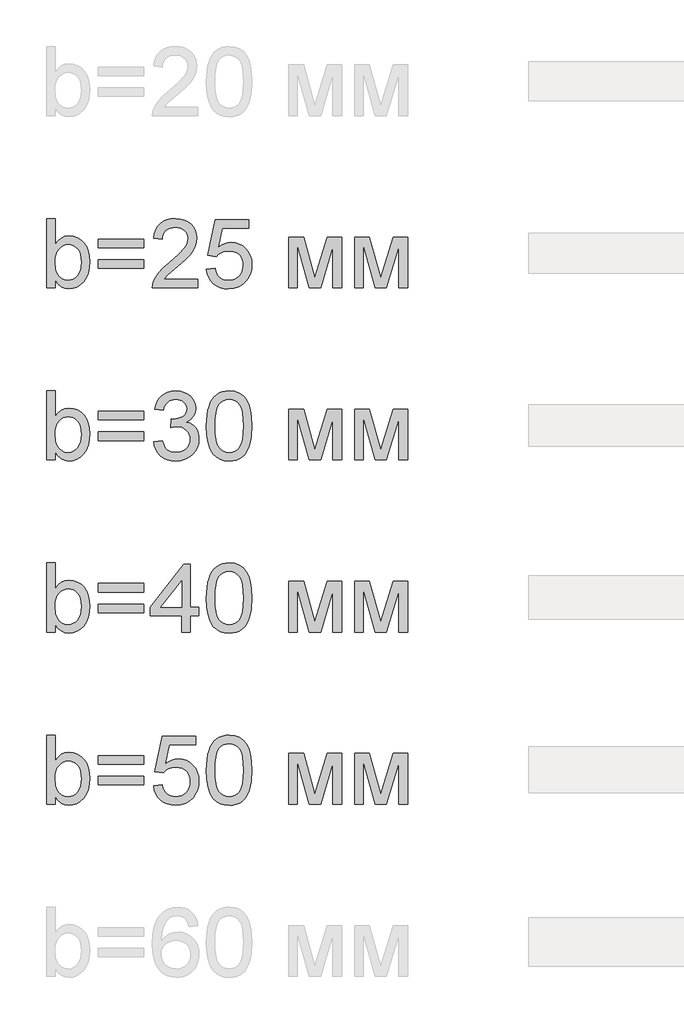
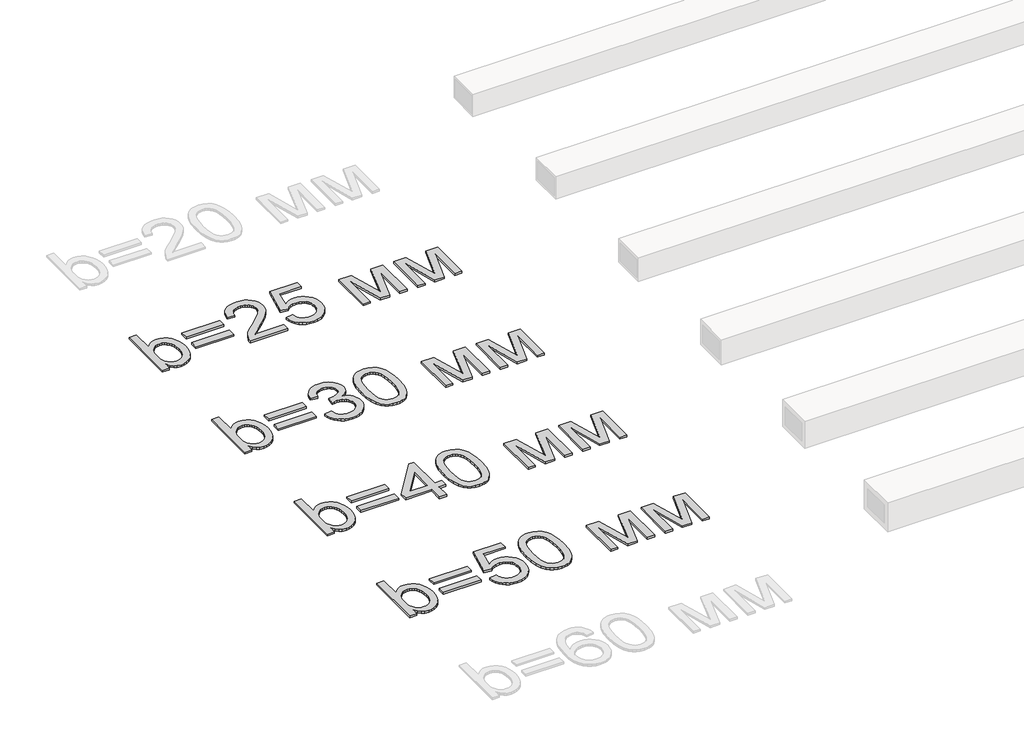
# One storey, part 84 of 86: 4 proxies.
"""IFC4 building model written with IfcOpenShell, lengths in millimetres."""

import ifcopenshell
import ifcopenshell.guid

model = None  # the IFC model being written
_history = None  # IfcOwnerHistory: only IFC2X3 demands one
_inside = {}  # id of a spatial element -> (the spatial element, [elements in it])
_under = {}  # id of a project, library or spatial element -> (it, [spatial elements below it])
_declared = {}  # id of a project -> (the project, [libraries it declares])
_typed = {}  # id of a type object -> (the type object, [elements of that type])
_made_of = {}  # id of a material, layer set ... -> (it, [elements and type objects made of it])


def new_model(schema):
    """Start an empty IFC model of exactly this schema.

    Asked for "IFC4X3", IfcOpenShell would pick the latest addendum, in which some entities
    have other attributes; the version numbers below select the first issue.
    IFC2X3 requires an IfcOwnerHistory on every rooted entity: one is made here for all.
    """
    global model, _history
    if schema == "IFC4X3":
        model = ifcopenshell.file(schema_version=(4, 3, 0, 0))
    else:
        model = ifcopenshell.file(schema=schema)
    _inside.clear()
    _under.clear()
    _declared.clear()
    _typed.clear()
    _made_of.clear()
    _history = None
    if model.schema == "IFC2X3":
        org = make("IfcOrganization", Name="unknown")
        user = make(
            "IfcPersonAndOrganization",
            ThePerson=make("IfcPerson", FamilyName="unknown"),
            TheOrganization=org,
        )
        app = make(
            "IfcApplication",
            ApplicationDeveloper=org,
            Version="unknown",
            ApplicationFullName="unknown",
            ApplicationIdentifier="unknown",
        )
        _history = make(
            "IfcOwnerHistory",
            OwningUser=user,
            OwningApplication=app,
            ChangeAction="ADDED",
            CreationDate=0,
        )
    return model


def make(cls, **values):
    """One entity of the class cls with the attributes given. An attribute that is None is left unset."""
    return model.create_entity(
        cls, **{name: value for name, value in values.items() if value is not None}
    )


def rooted(cls, **values):
    """An entity with a GlobalId (a new one), such as an element, a storey or a relation."""
    return make(cls, GlobalId=ifcopenshell.guid.new(), OwnerHistory=_history, **values)


def si_unit(unit_type, name, prefix=None):
    """IfcSIUnit, for example si_unit("LENGTHUNIT", "METRE", prefix="MILLI")."""
    return make("IfcSIUnit", UnitType=unit_type, Prefix=prefix, Name=name)


def assignment(units):
    """IfcUnitAssignment: the units of a project."""
    return None if units is None else make("IfcUnitAssignment", Units=units)


def point(xyz):
    """IfcCartesianPoint."""
    return None if xyz is None else make("IfcCartesianPoint", Coordinates=xyz)


def direction(xyz):
    """IfcDirection."""
    return None if xyz is None else make("IfcDirection", DirectionRatios=xyz)


def frame(location, z_axis=None, x_axis=None):
    """IfcAxis2Placement3D, a coordinate frame: its origin and axes. An axis left out is left unset."""
    return make(
        "IfcAxis2Placement3D",
        Location=point(location),
        Axis=direction(z_axis),
        RefDirection=direction(x_axis),
    )


def origin():
    """The frame at (0, 0, 0) with its axes left unset."""
    return frame((0.0, 0.0, 0.0))


def origin_with_axes():
    """The frame at (0, 0, 0) with the z axis (0, 0, 1) and the x axis (1, 0, 0) written out."""
    return frame((0.0, 0.0, 0.0), z_axis=(0.0, 0.0, 1.0), x_axis=(1.0, 0.0, 0.0))


def place(relative_to, where):
    """IfcLocalPlacement: puts the frame where relative to a parent placement (None: the world)."""
    return make(
        "IfcLocalPlacement", PlacementRelTo=relative_to, RelativePlacement=where
    )


def context(
    kind, dimensions, precision=None, world=None, true_north=None, identifier=None
):
    """IfcGeometricRepresentationContext, for example the 3D "Model" context."""
    return make(
        "IfcGeometricRepresentationContext",
        ContextIdentifier=identifier,
        ContextType=kind,
        CoordinateSpaceDimension=dimensions,
        Precision=precision,
        WorldCoordinateSystem=world,
        TrueNorth=true_north,
    )


def project(units=None, contexts=None):
    """IfcProject with its units and contexts."""
    return rooted(
        "IfcProject",
        Name="project",
        RepresentationContexts=contexts,
        UnitsInContext=assignment(units),
    )


def spatial(cls, under=None, at=None, **own):
    """A site, building, storey or space (cls), placed at a placement, below another one or the project."""
    s = rooted(cls, ObjectPlacement=at, **own)
    if under is not None:
        _under.setdefault(under.id(), (under, []))[1].append(s)
    return s


def polyline(points):
    """IfcPolyline through the points."""
    return make("IfcPolyline", Points=[point(p) for p in points])


def outline(outer, holes=None, kind="AREA"):
    """IfcArbitraryClosedProfileDef: a profile drawn as a closed curve; with holes, ...WithVoids."""
    if holes is None:
        return make("IfcArbitraryClosedProfileDef", ProfileType=kind, OuterCurve=outer)
    return make(
        "IfcArbitraryProfileDefWithVoids",
        ProfileType=kind,
        OuterCurve=outer,
        InnerCurves=holes,
    )


def extrude(swept, where, along, depth):
    """IfcExtrudedAreaSolid: the profile swept, set in the frame where, extruded along a direction by depth."""
    return make(
        "IfcExtrudedAreaSolid",
        SweptArea=swept,
        Position=where,
        ExtrudedDirection=direction(along),
        Depth=depth,
    )


def shape(context_of_items, identifier, shape_type, items):
    """IfcShapeRepresentation: the items that make up one representation, for example the "Body"."""
    return make(
        "IfcShapeRepresentation",
        ContextOfItems=context_of_items,
        RepresentationIdentifier=identifier,
        RepresentationType=shape_type,
        Items=items,
    )


def made_of(thing, what):
    """Note that an element or type object is made of a material, layer set ...; save() writes the relation."""
    if what is not None:
        _made_of.setdefault(what.id(), (what, []))[1].append(thing)
    return thing


def element(
    cls,
    number,
    at=None,
    inside=None,
    cuts=None,
    type_object=None,
    material=None,
    context=None,
    identifier="Body",
    shape_type=None,
    held_by="IfcProductDefinitionShape",
    body=None,
    shapes=None,
    **own,
):
    """One element of the class cls, such as IfcWall. Its Tag is "e" and its number.

    at: its placement. inside: the storey or other place that contains it. cuts: it is an
    opening in that element (IfcRelVoidsElement). A single representation is given by context,
    identifier, shape_type and body (its items); several are given by shapes. held_by: the class
    of the entity that holds the representations. save() writes the other relations.
    """
    e = rooted(cls, Tag="e%d" % number, ObjectPlacement=at, **own)
    if body is not None:
        shapes = [shape(context, identifier, shape_type, body)]
    if shapes is not None:
        e.Representation = make(held_by, Representations=shapes)
    if inside is not None:
        _inside.setdefault(inside.id(), (inside, []))[1].append(e)
    if cuts is not None:
        rooted(
            "IfcRelVoidsElement", RelatingBuildingElement=cuts, RelatedOpeningElement=e
        )
    if type_object is not None:
        _typed.setdefault(type_object.id(), (type_object, []))[1].append(e)
    return made_of(e, material)


def aggregate(whole, parts):
    """IfcRelAggregates: a whole, such as a stair, and the parts it consists of."""
    return rooted("IfcRelAggregates", RelatingObject=whole, RelatedObjects=parts)


def save(model, path):
    """Write the relations noted so far, then the file.

    IfcRelAggregates (storeys below a building ...), IfcRelContainedInSpatialStructure (elements
    in a storey), IfcRelDefinesByType, IfcRelAssociatesMaterial and IfcRelDeclares: one each for
    every whole, place, type object, material and project.
    """
    for whole, parts in _under.values():
        aggregate(whole, parts)
    for where, things in _inside.values():
        rooted(
            "IfcRelContainedInSpatialStructure",
            RelatedElements=things,
            RelatingStructure=where,
        )
    for kind, things in _typed.values():
        rooted("IfcRelDefinesByType", RelatedObjects=things, RelatingType=kind)
    for what, things in _made_of.values():
        rooted("IfcRelAssociatesMaterial", RelatedObjects=things, RelatingMaterial=what)
    for by, libraries in _declared.values():
        rooted("IfcRelDeclares", RelatingContext=by, RelatedDefinitions=libraries)
    model.write(path)


model = new_model("IFC4")

# Units and contexts
model_context = context("Model", 3, world=origin())
ifc_project = project(units=[si_unit("LENGTHUNIT", "METRE", prefix="MILLI")], contexts=[model_context])

# Site, building, storey
site = spatial("IfcSite", under=ifc_project)
building = spatial("IfcBuilding", under=site)
storey = spatial("IfcBuildingStorey", under=building, Name="Уровень 1", Elevation=0.0)

# Proxies
placement = place(None, origin())
element("IfcBuildingElementProxy", 1, Name="Текст модели 1", ObjectType="Текст модели 1", at=placement, inside=storey, context=model_context, shape_type="SweptSolid", body=[
    extrude(outline(polyline([(109771.0068445, 87669.2937088), (109695.6646119, 87669.2937088), (109695.6646119, 88272.0315697), (109771.0068445, 88272.0315697), (109771.0068445, 88048.5064694), (109795.7836969, 88080.3742473), (109823.7611226, 88103.1369457), (109854.9391217, 88116.7945648), (109889.3176942, 88121.3471045), (109928.1292447, 88117.2452202), (109964.8070796, 88104.9395675), (109997.2542716, 88085.2026984), (110023.3738932, 88058.8071653), (110043.8465263, 88026.0104854), (110059.3527524, 87987.0701762), (110069.1200193, 87943.6049185), (110072.375775, 87897.233393), (110069.0050562, 87843.7249568), (110058.8928999, 87796.6544555), (110042.039306, 87756.0218892), (110018.4442745, 87721.8272577), (109990.1219594, 87694.7235517), (109959.0865146, 87675.3637617), (109925.33794, 87663.7478877), (109888.8762358, 87659.8759297), (109853.3664262, 87664.8699278), (109821.8849245, 87679.8519221), (109794.4317306, 87704.8219125), (109771.0068445, 87739.7798991), (109771.0068445, 87669.2937088)]), holes=[polyline([(109771.0068445, 87893.7017259), (109776.1571925, 87830.8674811), (109782.5951274, 87807.065516), (109791.6082363, 87788.3403224), (109809.8643803, 87765.0993774), (109831.0819744, 87748.4987024), (109855.2610185, 87738.5382973), (109882.4015127, 87735.2181623), (109904.9342849, 87737.6645776), (109925.8851645, 87745.0038234), (109945.2541516, 87757.2358997), (109963.041246, 87774.3608066), (109977.9128757, 87796.3325588), (109988.5354683, 87823.105171), (109994.9090239, 87854.6786432), (109997.0335424, 87891.0529755), (109994.9963958, 87928.1170865), (109988.8849562, 87959.9940614), (109978.6992234, 87986.6839001), (109964.4391976, 88008.1866028), (109947.2912981, 88024.7320955), (109928.4419444, 88036.5503046), (109907.8911364, 88043.64123), (109885.6388742, 88046.0048719), (109863.106102, 88043.5584566), (109842.1552224, 88036.2192108), (109822.7862354, 88023.9871344), (109804.9991409, 88006.8622276), (109790.1275112, 87985.1112046), (109779.5049186, 87959.00078), (109773.1313631, 87928.5309538), (109771.0068445, 87893.7017259)])]), origin_with_axes(), (0.0, 0.0, 1.0), 20.0),
    extrude(outline(polyline([(110543.2647288, 88017.7515346), (110147.7180076, 88017.7515346), (110147.7180076, 88093.0937672), (110543.2647288, 88093.0937672), (110543.2647288, 88017.7515346)])), origin_with_axes(), (0.0, 0.0, 1.0), 20.0),
    extrude(outline(polyline([(110543.2647288, 87838.8137322), (110147.7180076, 87838.8137322), (110147.7180076, 87914.1559648), (110543.2647288, 87914.1559648), (110543.2647288, 87838.8137322)])), origin_with_axes(), (0.0, 0.0, 1.0), 20.0),
    extrude(outline(polyline([(111014.1536826, 87744.6359414), (111014.1536826, 87669.2937088), (110618.6069614, 87669.2937088), (110620.2624304, 87695.8180007), (110626.7003653, 87721.2386465), (110645.2784061, 87761.8344247), (110672.4648855, 87801.2161923), (110711.7914708, 87842.4373698), (110766.7898291, 87888.5513779), (110848.09175, 87960.7666136), (110896.8729026, 88014.0727147), (110911.1007387, 88035.8513288), (110921.2634789, 88057.3356373), (110927.3611229, 88078.5256402), (110929.393671, 88099.4213376), (110927.4760861, 88119.0800317), (110921.7233314, 88137.1476362), (110912.1354069, 88153.624151), (110898.7123126, 88168.5095763), (110882.1990095, 88180.8382216), (110863.3404587, 88189.6443969), (110842.1366602, 88194.928102), (110818.587614, 88196.6893371), (110793.778572, 88194.9694888), (110771.5906891, 88189.8099438), (110752.0239655, 88181.2107021), (110735.0784011, 88169.1717638), (110721.3701983, 88154.0977991), (110711.5155593, 88136.3934781), (110705.5144843, 88116.0588008), (110703.3669731, 88093.0937672), (110628.0247405, 88102.5115463), (110634.5040621, 88141.4058703), (110646.2900816, 88175.3889696), (110663.3827988, 88204.4608442), (110685.7822137, 88228.6214943), (110712.9732917, 88247.6134023), (110744.4409979, 88261.1790508), (110780.1853322, 88269.31844), (110820.2062948, 88272.0315697), (110860.5859423, 88269.0149373), (110896.5234147, 88259.9650403), (110928.018712, 88244.8818785), (110955.0718342, 88223.7654519), (110976.7998646, 88198.1792592), (110992.3198862, 88169.6867986), (111001.6318992, 88138.2880703), (111004.7359036, 88103.9830743), (111001.3881774, 88067.9490329), (110991.3449989, 88032.5403908), (110973.5211163, 87996.5247435), (110946.8312775, 87958.6696862), (110904.2857248, 87913.4753831), (110838.8947001, 87855.4419984), (110752.2217021, 87782.9692453), (110718.2294057, 87744.6359414), (111014.1536826, 87744.6359414)])), origin_with_axes(), (0.0, 0.0, 1.0), 20.0),
    extrude(outline(polyline([(111089.4959153, 87829.3959531), (111164.8381479, 87838.8137322), (111170.4667424, 87814.5933013), (111178.6705109, 87793.5826409), (111189.4494533, 87775.7817508), (111202.8035698, 87761.1906312), (111218.705269, 87749.8276761), (111237.1269599, 87741.7112795), (111258.0686425, 87736.8414416), (111281.5303167, 87735.2181623), (111310.2251124, 87737.4760381), (111335.5353936, 87744.2496653), (111357.4611605, 87755.539044), (111376.0024131, 87771.3441743), (111390.7452841, 87790.8833067), (111401.2759062, 87813.3746922), (111407.5942794, 87838.8183307), (111409.7004039, 87867.2142222), (111407.7276367, 87894.0512138), (111401.8093351, 87917.9083611), (111391.9454991, 87938.7856644), (111378.1361287, 87956.6831234), (111360.3352386, 87971.0397183), (111338.4968437, 87981.2944289), (111312.6209439, 87987.4472553), (111282.7075391, 87989.4981974), (111246.1584629, 87986.2240476), (111216.5623564, 87976.4015984), (111192.9259382, 87961.3552248), (111174.2559269, 87942.409302), (111098.9136943, 87951.8270811), (111164.8381479, 88262.6137906), (111456.7892992, 88262.6137906), (111456.7892992, 88187.271558), (111225.7594063, 88187.271558), (111193.5329435, 88021.2832018), (111220.1216147, 88040.3394891), (111247.3540794, 88053.951123), (111275.2303376, 88062.1181032), (111303.7503892, 88064.84043), (111340.4420197, 88061.4651127), (111374.144609, 88051.3391608), (111404.8581571, 88034.4625743), (111432.582664, 88010.8353531), (111455.5339019, 87981.9014342), (111471.9276433, 87949.1047543), (111481.7638882, 87912.4453135), (111485.0426365, 87871.9231117), (111482.0903835, 87832.8908321), (111473.2336244, 87796.5808791), (111458.4723594, 87762.993253), (111437.8065883, 87732.1279536), (111406.4998305, 87700.5176931), (111369.9691484, 87677.9389357), (111328.2145419, 87664.3916812), (111281.2360111, 87659.8759297), (111242.3554828, 87662.777599), (111207.2365478, 87671.4826067), (111175.8792062, 87685.9909529), (111148.2834581, 87706.3026375), (111125.3230231, 87731.4059852), (111107.8716209, 87760.2893203), (111095.9292516, 87792.952643), (111089.4959153, 87829.3959531)])), origin_with_axes(), (0.0, 0.0, 1.0), 20.0),
    extrude(outline(polyline([(111805.2471251, 88111.9293254), (111934.8887402, 88111.9293254), (112034.8054901, 87757.5853876), (112142.5213382, 88111.9293254), (112266.7182998, 88111.9293254), (112266.7182998, 87669.2937088), (112191.3760672, 87669.2937088), (112191.3760672, 88025.6977857), (112083.0716078, 87669.2937088), (111984.1849275, 87669.2937088), (111880.5893577, 88042.7675103), (111880.5893577, 87669.2937088), (111805.2471251, 87669.2937088), (111805.2471251, 88111.9293254)])), origin_with_axes(), (0.0, 0.0, 1.0), 20.0),
    extrude(outline(polyline([(112379.7316487, 88111.9293254), (112509.3732638, 88111.9293254), (112609.2900137, 87757.5853876), (112717.0058619, 88111.9293254), (112841.2028235, 88111.9293254), (112841.2028235, 87669.2937088), (112765.8605909, 87669.2937088), (112765.8605909, 88025.6977857), (112657.5561315, 87669.2937088), (112558.6694512, 87669.2937088), (112455.0738813, 88042.7675103), (112455.0738813, 87669.2937088), (112379.7316487, 87669.2937088), (112379.7316487, 88111.9293254)])), origin_with_axes(), (0.0, 0.0, 1.0), 20.0),
])
element("IfcBuildingElementProxy", 2, Name="Текст модели 1", ObjectType="Текст модели 1", at=placement, inside=storey, context=model_context, shape_type="SweptSolid", body=[
    extrude(outline(polyline([(109771.0068445, 86169.2937088), (109695.6646119, 86169.2937088), (109695.6646119, 86772.0315697), (109771.0068445, 86772.0315697), (109771.0068445, 86548.5064694), (109795.7836969, 86580.3742473), (109823.7611226, 86603.1369457), (109854.9391217, 86616.7945648), (109889.3176942, 86621.3471045), (109928.1292447, 86617.2452202), (109964.8070796, 86604.9395675), (109997.2542716, 86585.2026984), (110023.3738932, 86558.8071653), (110043.8465263, 86526.0104854), (110059.3527524, 86487.0701762), (110069.1200193, 86443.6049185), (110072.375775, 86397.233393), (110069.0050562, 86343.7249568), (110058.8928999, 86296.6544555), (110042.039306, 86256.0218892), (110018.4442745, 86221.8272577), (109990.1219594, 86194.7235517), (109959.0865146, 86175.3637617), (109925.33794, 86163.7478877), (109888.8762358, 86159.8759297), (109853.3664262, 86164.8699278), (109821.8849245, 86179.8519221), (109794.4317306, 86204.8219125), (109771.0068445, 86239.7798991), (109771.0068445, 86169.2937088)]), holes=[polyline([(109771.0068445, 86393.7017259), (109776.1571925, 86330.8674811), (109782.5951274, 86307.065516), (109791.6082363, 86288.3403224), (109809.8643803, 86265.0993774), (109831.0819744, 86248.4987024), (109855.2610185, 86238.5382973), (109882.4015127, 86235.2181623), (109904.9342849, 86237.6645776), (109925.8851645, 86245.0038234), (109945.2541516, 86257.2358997), (109963.041246, 86274.3608066), (109977.9128757, 86296.3325588), (109988.5354683, 86323.105171), (109994.9090239, 86354.6786432), (109997.0335424, 86391.0529755), (109994.9963958, 86428.1170865), (109988.8849562, 86459.9940614), (109978.6992234, 86486.6839001), (109964.4391976, 86508.1866028), (109947.2912981, 86524.7320955), (109928.4419444, 86536.5503046), (109907.8911364, 86543.64123), (109885.6388742, 86546.0048719), (109863.106102, 86543.5584566), (109842.1552224, 86536.2192108), (109822.7862354, 86523.9871344), (109804.9991409, 86506.8622276), (109790.1275112, 86485.1112046), (109779.5049186, 86459.00078), (109773.1313631, 86428.5309538), (109771.0068445, 86393.7017259)])]), origin_with_axes(), (0.0, 0.0, 1.0), 20.0),
    extrude(outline(polyline([(110543.2647288, 86517.7515346), (110147.7180076, 86517.7515346), (110147.7180076, 86593.0937672), (110543.2647288, 86593.0937672), (110543.2647288, 86517.7515346)])), origin_with_axes(), (0.0, 0.0, 1.0), 20.0),
    extrude(outline(polyline([(110543.2647288, 86338.8137322), (110147.7180076, 86338.8137322), (110147.7180076, 86414.1559648), (110543.2647288, 86414.1559648), (110543.2647288, 86338.8137322)])), origin_with_axes(), (0.0, 0.0, 1.0), 20.0),
    extrude(outline(polyline([(110628.0247405, 86329.3959531), (110703.3669731, 86338.8137322), (110720.2343626, 86291.4673194), (110731.6065148, 86273.5606633), (110744.9376386, 86259.498374), (110760.5312366, 86248.8757814), (110778.6908116, 86241.2882153), (110799.4163635, 86236.7356756), (110822.7078924, 86235.2181623), (110850.0047364, 86237.3058927), (110874.3585245, 86243.5690836), (110895.7692566, 86254.0077352), (110914.2369328, 86268.6218475), (110929.1085624, 86286.3169715), (110939.731155, 86305.9986582), (110946.1047106, 86327.6669077), (110948.2292291, 86351.32172), (110946.1231047, 86373.8498937), (110939.8047314, 86394.3455193), (110929.2741093, 86412.808597), (110914.5312383, 86429.2391266), (110896.5418088, 86442.7266002), (110876.2715108, 86452.36051), (110853.7203445, 86458.1408558), (110828.8883099, 86460.0676378), (110805.0863448, 86458.0074986), (110776.0604554, 86451.8270811), (110784.4481649, 86527.1693137), (110796.5146943, 86526.2863969), (110841.6538151, 86531.6942622), (110882.01047, 86547.9178582), (110898.6203421, 86560.1867228), (110910.4845364, 86575.3618551), (110917.603053, 86593.4432551), (110919.9758919, 86614.430923), (110918.2560435, 86631.4684579), (110913.0964986, 86646.9700854), (110904.4972569, 86660.9358057), (110892.4583186, 86673.3656186), (110877.7062506, 86683.5697454), (110860.9676198, 86690.8584075), (110821.53067, 86696.6893371), (110800.8740959, 86695.2178091), (110782.0201437, 86690.8032252), (110764.9688132, 86683.4455853), (110749.7201045, 86673.1448894), (110736.6510966, 86659.9011376), (110726.1388686, 86643.7143298), (110718.1834205, 86624.584466), (110712.7847522, 86602.5115463), (110637.4425196, 86611.9293254), (110646.372855, 86647.8989875), (110659.6258039, 86679.5828243), (110677.2013662, 86706.9808359), (110699.099542, 86730.0930222), (110724.6305524, 86748.4411368), (110753.1046189, 86761.5469328), (110784.5217413, 86769.4104105), (110818.8819196, 86772.0315697), (110866.2467265, 86766.8628277), (110909.7487724, 86751.3566016), (110946.4266073, 86726.8924489), (110973.3187812, 86694.8499271), (110989.8182887, 86657.9329689), (110995.3181245, 86618.8455069), (110990.0942002, 86582.4251894), (110974.4224272, 86549.3893862), (110948.5235347, 86521.2464136), (110912.618252, 86499.5045877), (110937.7261981, 86491.6503071), (110959.7807238, 86480.4483003), (110978.7818288, 86465.8985674), (110994.7295133, 86448.0011083), (111007.3478657, 86427.1973815), (111016.3609746, 86403.9288453), (111021.7688399, 86378.1954998), (111023.5714617, 86349.9973448), (111019.9662182, 86311.7744055), (111009.1504875, 86276.5680986), (110991.1242697, 86244.378424), (110965.8875649, 86215.2053818), (110935.1418271, 86190.9987465), (110900.5885107, 86173.7082927), (110862.2276157, 86163.3340205), (110820.059142, 86159.8759297), (110781.9465673, 86162.8281827), (110747.2185069, 86171.6849418), (110715.874961, 86186.4462068), (110687.9159293, 86207.1119779), (110664.4726492, 86232.4682444), (110646.6763577, 86261.3009958), (110634.5270548, 86293.610232), (110628.0247405, 86329.3959531)])), origin_with_axes(), (0.0, 0.0, 1.0), 20.0),
    extrude(outline(polyline([(111089.4959153, 86465.8065969), (111095.0325393, 86562.2836501), (111101.9533193, 86603.1967265), (111111.6424114, 86639.2261694), (111124.0584287, 86670.6662845), (111139.1599846, 86697.8113772), (111156.9470791, 86720.6614476), (111177.4197121, 86739.2164957), (111200.6468616, 86753.5730906), (111226.6975054, 86763.8278012), (111255.5716435, 86769.9806276), (111287.2692759, 86772.0315697), (111333.6959837, 86767.1755274), (111375.2666491, 86752.6074004), (111410.0314977, 86728.8974058), (111436.0407547, 86696.6157607), (111455.6856533, 86656.0383766), (111471.3574262, 86607.4411651), (111481.6213339, 86545.7289604), (111485.0426365, 86465.8065969), (111479.5611947, 86369.8813667), (111472.7093926, 86329.106246), (111463.1168696, 86293.1227884), (111450.7974212, 86261.6688778), (111435.7648432, 86234.4823983), (111418.0191355, 86211.56335), (111397.560298, 86192.9117329), (111374.3055574, 86178.458569), (111348.1721402, 86168.1348805), (111319.1600463, 86161.9406674), (111287.2692759, 86159.8759297), (111245.7721868, 86163.4627792), (111208.9839873, 86174.2233275), (111176.9046773, 86192.1575748), (111149.5342569, 86217.265521), (111123.2674824, 86262.6529621), (111104.5055007, 86319.2056218), (111093.2483116, 86386.9235001), (111089.4959153, 86465.8065969)]), holes=[polyline([(111164.8381479, 86465.9537497), (111167.0454398, 86400.456959), (111173.6673158, 86347.440565), (111184.7037756, 86306.9045676), (111200.1548194, 86278.848967), (111218.8432248, 86259.7604899), (111239.5917693, 86246.1258635), (111262.400453, 86237.9450876), (111287.2692759, 86235.2181623), (111312.1380987, 86237.9542847), (111334.9467824, 86246.1626517), (111355.695327, 86259.8432634), (111374.3837323, 86278.9961198), (111389.8347761, 86307.0977057), (111400.871236, 86347.624506), (111407.4931119, 86400.5765206), (111409.7004039, 86465.9537497), (111407.5666883, 86529.7168965), (111401.1655416, 86581.79979), (111390.4969637, 86622.2024301), (111375.5609547, 86650.9248169), (111357.185249, 86670.9467945), (111336.1975812, 86685.248207), (111312.5979512, 86693.8290546), (111286.3863591, 86696.6893371), (111261.6462949, 86694.1693454), (111239.2238873, 86686.6093704), (111219.1191363, 86674.0094121), (111201.3320418, 86656.3694704), (111185.3659632, 86625.0995008), (111173.9616213, 86582.9402242), (111167.1190162, 86529.8916405), (111164.8381479, 86465.9537497)])]), origin_with_axes(), (0.0, 0.0, 1.0), 20.0),
    extrude(outline(polyline([(111805.2471251, 86611.9293254), (111934.8887402, 86611.9293254), (112034.8054901, 86257.5853876), (112142.5213382, 86611.9293254), (112266.7182998, 86611.9293254), (112266.7182998, 86169.2937088), (112191.3760672, 86169.2937088), (112191.3760672, 86525.6977857), (112083.0716078, 86169.2937088), (111984.1849275, 86169.2937088), (111880.5893577, 86542.7675103), (111880.5893577, 86169.2937088), (111805.2471251, 86169.2937088), (111805.2471251, 86611.9293254)])), origin_with_axes(), (0.0, 0.0, 1.0), 20.0),
    extrude(outline(polyline([(112379.7316487, 86611.9293254), (112509.3732638, 86611.9293254), (112609.2900137, 86257.5853876), (112717.0058619, 86611.9293254), (112841.2028235, 86611.9293254), (112841.2028235, 86169.2937088), (112765.8605909, 86169.2937088), (112765.8605909, 86525.6977857), (112657.5561315, 86169.2937088), (112558.6694512, 86169.2937088), (112455.0738813, 86542.7675103), (112455.0738813, 86169.2937088), (112379.7316487, 86169.2937088), (112379.7316487, 86611.9293254)])), origin_with_axes(), (0.0, 0.0, 1.0), 20.0),
])
element("IfcBuildingElementProxy", 3, Name="Текст модели 1", ObjectType="Текст модели 1", at=placement, inside=storey, context=model_context, shape_type="SweptSolid", body=[
    extrude(outline(polyline([(109771.0068445, 84669.2937088), (109695.6646119, 84669.2937088), (109695.6646119, 85272.0315697), (109771.0068445, 85272.0315697), (109771.0068445, 85048.5064694), (109795.7836969, 85080.3742473), (109823.7611226, 85103.1369457), (109854.9391217, 85116.7945648), (109889.3176942, 85121.3471045), (109928.1292447, 85117.2452202), (109964.8070796, 85104.9395675), (109997.2542716, 85085.2026984), (110023.3738932, 85058.8071653), (110043.8465263, 85026.0104854), (110059.3527524, 84987.0701762), (110069.1200193, 84943.6049185), (110072.375775, 84897.233393), (110069.0050562, 84843.7249568), (110058.8928999, 84796.6544555), (110042.039306, 84756.0218892), (110018.4442745, 84721.8272577), (109990.1219594, 84694.7235517), (109959.0865146, 84675.3637617), (109925.33794, 84663.7478877), (109888.8762358, 84659.8759297), (109853.3664262, 84664.8699278), (109821.8849245, 84679.8519221), (109794.4317306, 84704.8219125), (109771.0068445, 84739.7798991), (109771.0068445, 84669.2937088)]), holes=[polyline([(109771.0068445, 84893.7017259), (109776.1571925, 84830.8674811), (109782.5951274, 84807.065516), (109791.6082363, 84788.3403224), (109809.8643803, 84765.0993774), (109831.0819744, 84748.4987024), (109855.2610185, 84738.5382973), (109882.4015127, 84735.2181623), (109904.9342849, 84737.6645776), (109925.8851645, 84745.0038234), (109945.2541516, 84757.2358997), (109963.041246, 84774.3608066), (109977.9128757, 84796.3325588), (109988.5354683, 84823.105171), (109994.9090239, 84854.6786432), (109997.0335424, 84891.0529755), (109994.9963958, 84928.1170865), (109988.8849562, 84959.9940614), (109978.6992234, 84986.6839001), (109964.4391976, 85008.1866028), (109947.2912981, 85024.7320955), (109928.4419444, 85036.5503046), (109907.8911364, 85043.64123), (109885.6388742, 85046.0048719), (109863.106102, 85043.5584566), (109842.1552224, 85036.2192108), (109822.7862354, 85023.9871344), (109804.9991409, 85006.8622276), (109790.1275112, 84985.1112046), (109779.5049186, 84959.00078), (109773.1313631, 84928.5309538), (109771.0068445, 84893.7017259)])]), origin_with_axes(), (0.0, 0.0, 1.0), 20.0),
    extrude(outline(polyline([(110543.2647288, 85017.7515346), (110147.7180076, 85017.7515346), (110147.7180076, 85093.0937672), (110543.2647288, 85093.0937672), (110543.2647288, 85017.7515346)])), origin_with_axes(), (0.0, 0.0, 1.0), 20.0),
    extrude(outline(polyline([(110543.2647288, 84838.8137322), (110147.7180076, 84838.8137322), (110147.7180076, 84914.1559648), (110543.2647288, 84914.1559648), (110543.2647288, 84838.8137322)])), origin_with_axes(), (0.0, 0.0, 1.0), 20.0),
    extrude(outline(polyline([(110872.8869965, 84669.2937088), (110872.8869965, 84810.5603949), (110599.7714033, 84810.5603949), (110599.7714033, 84885.9026276), (110891.7225546, 85262.6137906), (110948.2292291, 85262.6137906), (110948.2292291, 84885.9026276), (111023.5714617, 84885.9026276), (111023.5714617, 84810.5603949), (110948.2292291, 84810.5603949), (110948.2292291, 84669.2937088), (110872.8869965, 84669.2937088)]), holes=[polyline([(110872.8869965, 84885.9026276), (110872.8869965, 85118.6983541), (110692.4776661, 84885.9026276), (110872.8869965, 84885.9026276)])]), origin_with_axes(), (0.0, 0.0, 1.0), 20.0),
    extrude(outline(polyline([(111089.4959153, 84965.8065969), (111095.0325393, 85062.2836501), (111101.9533193, 85103.1967265), (111111.6424114, 85139.2261694), (111124.0584287, 85170.6662845), (111139.1599846, 85197.8113772), (111156.9470791, 85220.6614476), (111177.4197121, 85239.2164957), (111200.6468616, 85253.5730906), (111226.6975054, 85263.8278012), (111255.5716435, 85269.9806276), (111287.2692759, 85272.0315697), (111333.6959837, 85267.1755274), (111375.2666491, 85252.6074004), (111410.0314977, 85228.8974058), (111436.0407547, 85196.6157607), (111455.6856533, 85156.0383766), (111471.3574262, 85107.4411651), (111481.6213339, 85045.7289604), (111485.0426365, 84965.8065969), (111479.5611947, 84869.8813667), (111472.7093926, 84829.106246), (111463.1168696, 84793.1227884), (111450.7974212, 84761.6688778), (111435.7648432, 84734.4823983), (111418.0191355, 84711.56335), (111397.560298, 84692.9117329), (111374.3055574, 84678.458569), (111348.1721402, 84668.1348805), (111319.1600463, 84661.9406674), (111287.2692759, 84659.8759297), (111245.7721868, 84663.4627792), (111208.9839873, 84674.2233275), (111176.9046773, 84692.1575748), (111149.5342569, 84717.265521), (111123.2674824, 84762.6529621), (111104.5055007, 84819.2056218), (111093.2483116, 84886.9235001), (111089.4959153, 84965.8065969)]), holes=[polyline([(111164.8381479, 84965.9537497), (111167.0454398, 84900.456959), (111173.6673158, 84847.440565), (111184.7037756, 84806.9045676), (111200.1548194, 84778.848967), (111218.8432248, 84759.7604899), (111239.5917693, 84746.1258635), (111262.400453, 84737.9450876), (111287.2692759, 84735.2181623), (111312.1380987, 84737.9542847), (111334.9467824, 84746.1626517), (111355.695327, 84759.8432634), (111374.3837323, 84778.9961198), (111389.8347761, 84807.0977057), (111400.871236, 84847.624506), (111407.4931119, 84900.5765206), (111409.7004039, 84965.9537497), (111407.5666883, 85029.7168965), (111401.1655416, 85081.79979), (111390.4969637, 85122.2024301), (111375.5609547, 85150.9248169), (111357.185249, 85170.9467945), (111336.1975812, 85185.248207), (111312.5979512, 85193.8290546), (111286.3863591, 85196.6893371), (111261.6462949, 85194.1693454), (111239.2238873, 85186.6093704), (111219.1191363, 85174.0094121), (111201.3320418, 85156.3694704), (111185.3659632, 85125.0995008), (111173.9616213, 85082.9402242), (111167.1190162, 85029.8916405), (111164.8381479, 84965.9537497)])]), origin_with_axes(), (0.0, 0.0, 1.0), 20.0),
    extrude(outline(polyline([(111805.2471251, 85111.9293254), (111934.8887402, 85111.9293254), (112034.8054901, 84757.5853876), (112142.5213382, 85111.9293254), (112266.7182998, 85111.9293254), (112266.7182998, 84669.2937088), (112191.3760672, 84669.2937088), (112191.3760672, 85025.6977857), (112083.0716078, 84669.2937088), (111984.1849275, 84669.2937088), (111880.5893577, 85042.7675103), (111880.5893577, 84669.2937088), (111805.2471251, 84669.2937088), (111805.2471251, 85111.9293254)])), origin_with_axes(), (0.0, 0.0, 1.0), 20.0),
    extrude(outline(polyline([(112379.7316487, 85111.9293254), (112509.3732638, 85111.9293254), (112609.2900137, 84757.5853876), (112717.0058619, 85111.9293254), (112841.2028235, 85111.9293254), (112841.2028235, 84669.2937088), (112765.8605909, 84669.2937088), (112765.8605909, 85025.6977857), (112657.5561315, 84669.2937088), (112558.6694512, 84669.2937088), (112455.0738813, 85042.7675103), (112455.0738813, 84669.2937088), (112379.7316487, 84669.2937088), (112379.7316487, 85111.9293254)])), origin_with_axes(), (0.0, 0.0, 1.0), 20.0),
])
element("IfcBuildingElementProxy", 4, Name="Текст модели 1", ObjectType="Текст модели 1", at=placement, inside=storey, context=model_context, shape_type="SweptSolid", body=[
    extrude(outline(polyline([(109771.0068445, 83169.2937088), (109695.6646119, 83169.2937088), (109695.6646119, 83772.0315697), (109771.0068445, 83772.0315697), (109771.0068445, 83548.5064694), (109795.7836969, 83580.3742473), (109823.7611226, 83603.1369457), (109854.9391217, 83616.7945648), (109889.3176942, 83621.3471045), (109928.1292447, 83617.2452202), (109964.8070796, 83604.9395675), (109997.2542716, 83585.2026984), (110023.3738932, 83558.8071653), (110043.8465263, 83526.0104854), (110059.3527524, 83487.0701762), (110069.1200193, 83443.6049185), (110072.375775, 83397.233393), (110069.0050562, 83343.7249568), (110058.8928999, 83296.6544555), (110042.039306, 83256.0218892), (110018.4442745, 83221.8272577), (109990.1219594, 83194.7235517), (109959.0865146, 83175.3637617), (109925.33794, 83163.7478877), (109888.8762358, 83159.8759297), (109853.3664262, 83164.8699278), (109821.8849245, 83179.8519221), (109794.4317306, 83204.8219125), (109771.0068445, 83239.7798991), (109771.0068445, 83169.2937088)]), holes=[polyline([(109771.0068445, 83393.7017259), (109776.1571925, 83330.8674811), (109782.5951274, 83307.065516), (109791.6082363, 83288.3403224), (109809.8643803, 83265.0993774), (109831.0819744, 83248.4987024), (109855.2610185, 83238.5382973), (109882.4015127, 83235.2181623), (109904.9342849, 83237.6645776), (109925.8851645, 83245.0038234), (109945.2541516, 83257.2358997), (109963.041246, 83274.3608066), (109977.9128757, 83296.3325588), (109988.5354683, 83323.105171), (109994.9090239, 83354.6786432), (109997.0335424, 83391.0529755), (109994.9963958, 83428.1170865), (109988.8849562, 83459.9940614), (109978.6992234, 83486.6839001), (109964.4391976, 83508.1866028), (109947.2912981, 83524.7320955), (109928.4419444, 83536.5503046), (109907.8911364, 83543.64123), (109885.6388742, 83546.0048719), (109863.106102, 83543.5584566), (109842.1552224, 83536.2192108), (109822.7862354, 83523.9871344), (109804.9991409, 83506.8622276), (109790.1275112, 83485.1112046), (109779.5049186, 83459.00078), (109773.1313631, 83428.5309538), (109771.0068445, 83393.7017259)])]), origin_with_axes(), (0.0, 0.0, 1.0), 20.0),
    extrude(outline(polyline([(110543.2647288, 83517.7515346), (110147.7180076, 83517.7515346), (110147.7180076, 83593.0937672), (110543.2647288, 83593.0937672), (110543.2647288, 83517.7515346)])), origin_with_axes(), (0.0, 0.0, 1.0), 20.0),
    extrude(outline(polyline([(110543.2647288, 83338.8137322), (110147.7180076, 83338.8137322), (110147.7180076, 83414.1559648), (110543.2647288, 83414.1559648), (110543.2647288, 83338.8137322)])), origin_with_axes(), (0.0, 0.0, 1.0), 20.0),
    extrude(outline(polyline([(110628.0247405, 83329.3959531), (110703.3669731, 83338.8137322), (110708.9955676, 83314.5933013), (110717.1993361, 83293.5826409), (110727.9782786, 83275.7817508), (110741.332395, 83261.1906312), (110757.2340943, 83249.8276761), (110775.6557852, 83241.7112795), (110796.5974677, 83236.8414416), (110820.059142, 83235.2181623), (110848.7539376, 83237.4760381), (110874.0642189, 83244.2496653), (110895.9899858, 83255.539044), (110914.5312383, 83271.3441743), (110929.2741093, 83290.8833067), (110939.8047314, 83313.3746922), (110946.1231047, 83338.8183307), (110948.2292291, 83367.2142222), (110946.2564619, 83394.0512138), (110940.3381603, 83417.9083611), (110930.4743243, 83438.7856644), (110916.6649539, 83456.6831234), (110898.8640639, 83471.0397183), (110877.0256689, 83481.2944289), (110851.1497691, 83487.4472553), (110821.2363644, 83489.4981974), (110784.6872881, 83486.2240476), (110755.0911816, 83476.4015984), (110731.4547634, 83461.3552248), (110712.7847522, 83442.409302), (110637.4425196, 83451.8270811), (110703.3669731, 83762.6137906), (110995.3181245, 83762.6137906), (110995.3181245, 83687.271558), (110764.2882315, 83687.271558), (110732.0617687, 83521.2832018), (110758.6504399, 83540.3394891), (110785.8829046, 83553.951123), (110813.7591628, 83562.1181032), (110842.2792145, 83564.84043), (110878.970845, 83561.4651127), (110912.6734343, 83551.3391608), (110943.3869823, 83534.4625743), (110971.1114892, 83510.8353531), (110994.0627272, 83481.9014342), (111010.4564686, 83449.1047543), (111020.2927134, 83412.4453135), (111023.5714617, 83371.9231117), (111020.6192087, 83332.8908321), (111011.7624497, 83296.5808791), (110997.0011846, 83262.993253), (110976.3354135, 83232.1279536), (110945.0286557, 83200.5176931), (110908.4979736, 83177.9389357), (110866.7433672, 83164.3916812), (110819.7648364, 83159.8759297), (110780.884308, 83162.777599), (110745.7653731, 83171.4826067), (110714.4080315, 83185.9909529), (110686.8122833, 83206.3026375), (110663.8518483, 83231.4059852), (110646.4004462, 83260.2893203), (110634.4580769, 83292.952643), (110628.0247405, 83329.3959531)])), origin_with_axes(), (0.0, 0.0, 1.0), 20.0),
    extrude(outline(polyline([(111089.4959153, 83465.8065969), (111095.0325393, 83562.2836501), (111101.9533193, 83603.1967265), (111111.6424114, 83639.2261694), (111124.0584287, 83670.6662845), (111139.1599846, 83697.8113772), (111156.9470791, 83720.6614476), (111177.4197121, 83739.2164957), (111200.6468616, 83753.5730906), (111226.6975054, 83763.8278012), (111255.5716435, 83769.9806276), (111287.2692759, 83772.0315697), (111333.6959837, 83767.1755274), (111375.2666491, 83752.6074004), (111410.0314977, 83728.8974058), (111436.0407547, 83696.6157607), (111455.6856533, 83656.0383766), (111471.3574262, 83607.4411651), (111481.6213339, 83545.7289604), (111485.0426365, 83465.8065969), (111479.5611947, 83369.8813667), (111472.7093926, 83329.106246), (111463.1168696, 83293.1227884), (111450.7974212, 83261.6688778), (111435.7648432, 83234.4823983), (111418.0191355, 83211.56335), (111397.560298, 83192.9117329), (111374.3055574, 83178.458569), (111348.1721402, 83168.1348805), (111319.1600463, 83161.9406674), (111287.2692759, 83159.8759297), (111245.7721868, 83163.4627792), (111208.9839873, 83174.2233275), (111176.9046773, 83192.1575748), (111149.5342569, 83217.265521), (111123.2674824, 83262.6529621), (111104.5055007, 83319.2056218), (111093.2483116, 83386.9235001), (111089.4959153, 83465.8065969)]), holes=[polyline([(111164.8381479, 83465.9537497), (111167.0454398, 83400.456959), (111173.6673158, 83347.440565), (111184.7037756, 83306.9045676), (111200.1548194, 83278.848967), (111218.8432248, 83259.7604899), (111239.5917693, 83246.1258635), (111262.400453, 83237.9450876), (111287.2692759, 83235.2181623), (111312.1380987, 83237.9542847), (111334.9467824, 83246.1626517), (111355.695327, 83259.8432634), (111374.3837323, 83278.9961198), (111389.8347761, 83307.0977057), (111400.871236, 83347.624506), (111407.4931119, 83400.5765206), (111409.7004039, 83465.9537497), (111407.5666883, 83529.7168965), (111401.1655416, 83581.79979), (111390.4969637, 83622.2024301), (111375.5609547, 83650.9248169), (111357.185249, 83670.9467945), (111336.1975812, 83685.248207), (111312.5979512, 83693.8290546), (111286.3863591, 83696.6893371), (111261.6462949, 83694.1693454), (111239.2238873, 83686.6093704), (111219.1191363, 83674.0094121), (111201.3320418, 83656.3694704), (111185.3659632, 83625.0995008), (111173.9616213, 83582.9402242), (111167.1190162, 83529.8916405), (111164.8381479, 83465.9537497)])]), origin_with_axes(), (0.0, 0.0, 1.0), 20.0),
    extrude(outline(polyline([(111805.2471251, 83611.9293254), (111934.8887402, 83611.9293254), (112034.8054901, 83257.5853876), (112142.5213382, 83611.9293254), (112266.7182998, 83611.9293254), (112266.7182998, 83169.2937088), (112191.3760672, 83169.2937088), (112191.3760672, 83525.6977857), (112083.0716078, 83169.2937088), (111984.1849275, 83169.2937088), (111880.5893577, 83542.7675103), (111880.5893577, 83169.2937088), (111805.2471251, 83169.2937088), (111805.2471251, 83611.9293254)])), origin_with_axes(), (0.0, 0.0, 1.0), 20.0),
    extrude(outline(polyline([(112379.7316487, 83611.9293254), (112509.3732638, 83611.9293254), (112609.2900137, 83257.5853876), (112717.0058619, 83611.9293254), (112841.2028235, 83611.9293254), (112841.2028235, 83169.2937088), (112765.8605909, 83169.2937088), (112765.8605909, 83525.6977857), (112657.5561315, 83169.2937088), (112558.6694512, 83169.2937088), (112455.0738813, 83542.7675103), (112455.0738813, 83169.2937088), (112379.7316487, 83169.2937088), (112379.7316487, 83611.9293254)])), origin_with_axes(), (0.0, 0.0, 1.0), 20.0),
])

save(model, "model.ifc")
